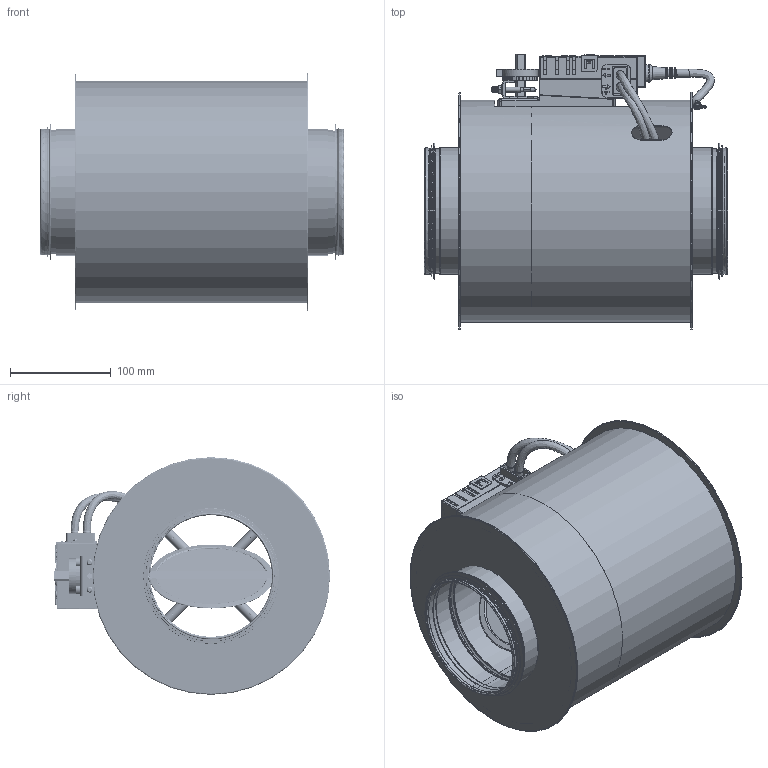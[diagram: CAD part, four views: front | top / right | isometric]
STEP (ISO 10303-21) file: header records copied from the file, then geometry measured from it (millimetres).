
FILE_DESCRIPTION (( 'STEP AP214' ), '1' );
FILE_NAME ('VAV-RI125.STEP', '2025-03-06T10:44:55', ( '' ), ( '' ), 'SwSTEP 2.0', 'SolidWorks 2025', '' );
FILE_SCHEMA (( 'AUTOMOTIVE_DESIGN' ));
Length unit declared in the file: millimetre
Products named in the file (20): CROSS_DN125; Dichtung_Vierkantxxx_x_x; CROSS_PLUG; DB_DN125; Dichtungen; Sicherungsscheibexxx_x_x; VSRV_Zapfen; Abschlusskappexxx_x_x; Label VAVR125; Isogehäuse_DN125; Teil6^VAV-RI125; VAV-RI125; BELIMO_MOTOR BRACKET_DN125; Dichtung_innenxxx_x_x; LDE_DN125; CROSS_PIECE; BLECHSCHRAUBE; KLAPPE125; LMV-D3-MP; CROSS_WING125
Assembly tree (28 placements, depth 3):
  VAV-RI125
    DB_DN125
    BELIMO_MOTOR BRACKET_DN125
    CROSS_DN125
      CROSS_PIECE
      CROSS_WING125  x4
      CROSS_PLUG  x3
      VSRV_Zapfen
    LDE_DN125  x2
    BLECHSCHRAUBE  x3
    LMV-D3-MP
    Dichtungen  x2
      Abschlusskappexxx_x_x
      Dichtung_innenxxx_x_x
      Dichtung_Vierkantxxx_x_x
      Sicherungsscheibexxx_x_x
    KLAPPE125
    Label VAVR125
    Isogehäuse_DN125
    Teil6^VAV-RI125
Bounding box: 300.34 x 273.4 x 235.5 mm (x, y, z)
Volume: 291384.5 mm3; surface area: 932978.8 mm2
Topology: 30 solids, 48 shells, 6731 faces, 18206 edges, 11954 vertices
Faces by surface type: plane 2970, bspline 2470, cylinder 1027, torus 141, cone 93, sphere 30
Full cylindrical faces by diameter (mm): 1 x4, 1.911 x6, 2 x17, 2.5 x6, 3.5 x3, 4 x2, 5 x2, 5.5 x3, 6 x27, 7.5 x2, 8 x21, 11 x1, 16 x2, 20 x2, 21 x2, 21.422 x2, 23.5 x2, 25 x2, 120.845 x2, 121.74 x2, 122.4 x2, 124.14 x4, 125 x4, 126 x1, 134.74 x2, 218 x1, 219 x2, 220 x1
Entity records: 356344 total; most frequent: CARTESIAN_POINT 160389, ORIENTED_EDGE 34243, EDGE_CURVE 17143, DIRECTION 15900, VERTEX_POINT 11388, B_SPLINE_CURVE_WITH_KNOTS 11137, EDGE_LOOP 7156, FACE_OUTER_BOUND 6538
